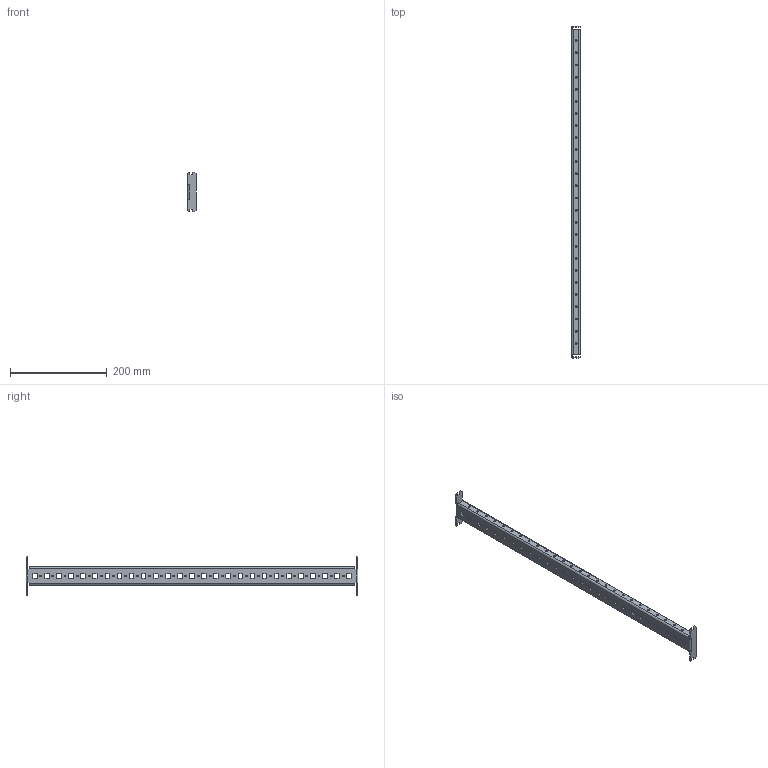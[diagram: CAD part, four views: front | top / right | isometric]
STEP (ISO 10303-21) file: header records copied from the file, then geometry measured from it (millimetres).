
FILE_DESCRIPTION (( 'STEP AP203' ), '1' );
FILE_NAME ('MG 80.04 CL Òðàâåðñà ìîíòàæíàÿ.STEP', '2015-07-21T10:50:41', ( 'System' ), ( '' ), 'SwSTEP 2.0', 'SolidWorks 2012', '' );
FILE_SCHEMA (( 'CONFIG_CONTROL_DESIGN' ));
Length unit declared in the file: millimetre
Products named in the file (1): MG 80.04 CL Òðàâåðñà ìîíòàæíàÿ
Bounding box: 18.5 x 686 x 82.5 mm (x, y, z)
Volume: 112006 mm3; surface area: 119699.5 mm2
Topology: 1 solids, 1 shells, 464 faces, 1354 edges, 892 vertices
Faces by surface type: cylinder 282, plane 182
Entity records: 16043 total; most frequent: DIRECTION 2848, CARTESIAN_POINT 2711, ORIENTED_EDGE 2708, EDGE_CURVE 1354, AXIS2_PLACEMENT_3D 1029, VERTEX_POINT 892, VECTOR 790, LINE 790
